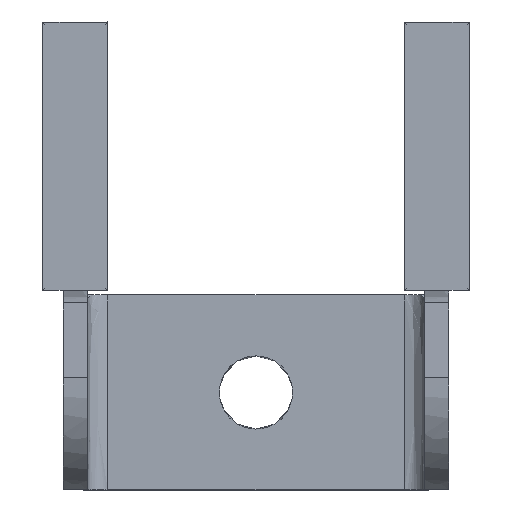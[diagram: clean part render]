
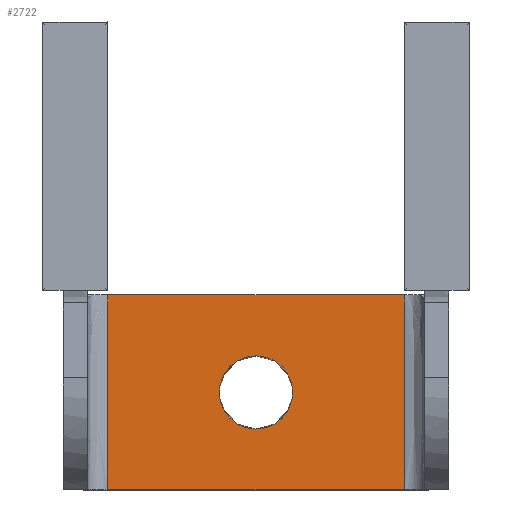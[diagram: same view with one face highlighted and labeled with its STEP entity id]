
A CAD part, top view. The second image highlights one B-rep face of the part: STEP entity #2722.
In plain terms, the highlighted planar face has unit normal (0, 0, 1).
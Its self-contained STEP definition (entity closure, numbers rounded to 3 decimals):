
#26 = VERTEX_POINT ( 'NONE', #59 ) ;
#59 = CARTESIAN_POINT ( 'NONE',  ( -36.5, -35., -120. ) ) ;
#168 = VERTEX_POINT ( 'NONE', #288 ) ;
#247 = CARTESIAN_POINT ( 'NONE',  ( 36.5, -83., -120. ) ) ;
#272 = VERTEX_POINT ( 'NONE', #314 ) ;
#279 = VERTEX_POINT ( 'NONE', #339 ) ;
#285 = CARTESIAN_POINT ( 'NONE',  ( 9., -59., -120. ) ) ;
#288 = CARTESIAN_POINT ( 'NONE',  ( -36.5, -83., -120. ) ) ;
#314 = CARTESIAN_POINT ( 'NONE',  ( -9., -59., -120. ) ) ;
#339 = CARTESIAN_POINT ( 'NONE',  ( 36.5, -35., -120. ) ) ;
#343 = VERTEX_POINT ( 'NONE', #285 ) ;
#349 = VERTEX_POINT ( 'NONE', #247 ) ;
#529 = EDGE_CURVE ( 'NONE', #26, #168, #2922, .T. ) ;
#550 = EDGE_CURVE ( 'NONE', #349, #279, #2876, .T. ) ;
#599 = EDGE_CURVE ( 'NONE', #349, #168, #2767, .T. ) ;
#600 = EDGE_CURVE ( 'NONE', #272, #343, #2484, .T. ) ;
#601 = EDGE_CURVE ( 'NONE', #343, #272, #2483, .T. ) ;
#602 = EDGE_CURVE ( 'NONE', #279, #26, #2797, .T. ) ;
#646 = AXIS2_PLACEMENT_3D ( 'NONE', #1356, #1358, #1359 ) ;
#1356 = CARTESIAN_POINT ( 'NONE',  ( -36.5, -35., -120. ) ) ;
#1357 = PLANE ( 'NONE',  #646 ) ;
#1358 = DIRECTION ( 'NONE',  ( 0., 0., 1. ) ) ;
#1359 = DIRECTION ( 'NONE',  ( 0., -1., 0. ) ) ;
#2483 = B_SPLINE_CURVE_WITH_KNOTS ( 'NONE', 3,
 ( #3432, #3408, #3407, #3406, #3405, #3404, #3403, #3402, #3401, #3400, #3399, #3398, #3397, #3396, #3395, #3394, #3393, #3392, #3391 ),
 .UNSPECIFIED., .F., .F.,
 ( 4, 3, 3, 3, 3, 3, 4 ),
 ( -0.026, -0.021, -0.016, -0.012, -0.007, -0.002, 0.002 ),
 .UNSPECIFIED. ) ;
#2484 = B_SPLINE_CURVE_WITH_KNOTS ( 'NONE', 3,
 ( #3442, #3426, #3425, #3424, #3423, #3422, #3421, #3420, #3419, #3418, #3417, #3416, #3415, #3414, #3413, #3412, #3411, #3410, #3409 ),
 .UNSPECIFIED., .F., .F.,
 ( 4, 3, 3, 3, 3, 3, 4 ),
 ( -0.026, -0.021, -0.016, -0.012, -0.007, -0.002, 0.002 ),
 .UNSPECIFIED. ) ;
#2574 = FACE_OUTER_BOUND ( 'NONE', #3150, .T. ) ;
#2581 = FACE_BOUND ( 'NONE', #3251, .T. ) ;
#2674 = DIRECTION ( 'NONE',  ( 0., -1., 0. ) ) ;
#2675 = CARTESIAN_POINT ( 'NONE',  ( -36.5, -35., -120. ) ) ;
#2722 = ADVANCED_FACE ( 'NONE', ( #2581, #2574 ), #1357, .T. ) ;
#2748 = ORIENTED_EDGE ( 'NONE', *, *, #602, .T. ) ;
#2749 = ORIENTED_EDGE ( 'NONE', *, *, #550, .T. ) ;
#2750 = ORIENTED_EDGE ( 'NONE', *, *, #529, .T. ) ;
#2751 = ORIENTED_EDGE ( 'NONE', *, *, #599, .F. ) ;
#2765 = VECTOR ( 'NONE', #3389, 1000. ) ;
#2766 = VECTOR ( 'NONE', #3428, 1000. ) ;
#2767 = LINE ( 'NONE', #3429, #2766 ) ;
#2797 = LINE ( 'NONE', #3390, #2765 ) ;
#2876 = LINE ( 'NONE', #3754, #2878 ) ;
#2878 = VECTOR ( 'NONE', #3753, 1000. ) ;
#2917 = VECTOR ( 'NONE', #2674, 1000. ) ;
#2922 = LINE ( 'NONE', #2675, #2917 ) ;
#3150 = EDGE_LOOP ( 'NONE', ( #2749, #2748, #2750, #2751 ) ) ;
#3230 = ORIENTED_EDGE ( 'NONE', *, *, #601, .F. ) ;
#3235 = ORIENTED_EDGE ( 'NONE', *, *, #600, .F. ) ;
#3251 = EDGE_LOOP ( 'NONE', ( #3230, #3235 ) ) ;
#3389 = DIRECTION ( 'NONE',  ( -1., 0., 0. ) ) ;
#3390 = CARTESIAN_POINT ( 'NONE',  ( -36.5, -35., -120. ) ) ;
#3391 = CARTESIAN_POINT ( 'NONE',  ( -9., -59., -120. ) ) ;
#3392 = CARTESIAN_POINT ( 'NONE',  ( -9., -57.42, -120. ) ) ;
#3393 = CARTESIAN_POINT ( 'NONE',  ( -8.584, -55.868, -120. ) ) ;
#3394 = CARTESIAN_POINT ( 'NONE',  ( -7.794, -54.5, -120. ) ) ;
#3395 = CARTESIAN_POINT ( 'NONE',  ( -7.004, -53.132, -120. ) ) ;
#3396 = CARTESIAN_POINT ( 'NONE',  ( -5.868, -51.996, -120. ) ) ;
#3397 = CARTESIAN_POINT ( 'NONE',  ( -4.5, -51.206, -120. ) ) ;
#3398 = CARTESIAN_POINT ( 'NONE',  ( -3.132, -50.416, -120. ) ) ;
#3399 = CARTESIAN_POINT ( 'NONE',  ( -1.58, -50., -120. ) ) ;
#3400 = CARTESIAN_POINT ( 'NONE',  ( 0., -50., -120. ) ) ;
#3401 = CARTESIAN_POINT ( 'NONE',  ( 1.58, -50., -120. ) ) ;
#3402 = CARTESIAN_POINT ( 'NONE',  ( 3.132, -50.416, -120. ) ) ;
#3403 = CARTESIAN_POINT ( 'NONE',  ( 4.5, -51.206, -120. ) ) ;
#3404 = CARTESIAN_POINT ( 'NONE',  ( 5.868, -51.996, -120. ) ) ;
#3405 = CARTESIAN_POINT ( 'NONE',  ( 7.004, -53.132, -120. ) ) ;
#3406 = CARTESIAN_POINT ( 'NONE',  ( 7.794, -54.5, -120. ) ) ;
#3407 = CARTESIAN_POINT ( 'NONE',  ( 8.584, -55.868, -120. ) ) ;
#3408 = CARTESIAN_POINT ( 'NONE',  ( 9., -57.42, -120. ) ) ;
#3409 = CARTESIAN_POINT ( 'NONE',  ( 9., -59., -120. ) ) ;
#3410 = CARTESIAN_POINT ( 'NONE',  ( 9., -60.58, -120. ) ) ;
#3411 = CARTESIAN_POINT ( 'NONE',  ( 8.584, -62.132, -120. ) ) ;
#3412 = CARTESIAN_POINT ( 'NONE',  ( 7.794, -63.5, -120. ) ) ;
#3413 = CARTESIAN_POINT ( 'NONE',  ( 7.004, -64.868, -120. ) ) ;
#3414 = CARTESIAN_POINT ( 'NONE',  ( 5.868, -66.004, -120. ) ) ;
#3415 = CARTESIAN_POINT ( 'NONE',  ( 4.5, -66.794, -120. ) ) ;
#3416 = CARTESIAN_POINT ( 'NONE',  ( 3.132, -67.584, -120. ) ) ;
#3417 = CARTESIAN_POINT ( 'NONE',  ( 1.58, -68., -120. ) ) ;
#3418 = CARTESIAN_POINT ( 'NONE',  ( 0., -68., -120. ) ) ;
#3419 = CARTESIAN_POINT ( 'NONE',  ( -1.58, -68., -120. ) ) ;
#3420 = CARTESIAN_POINT ( 'NONE',  ( -3.132, -67.584, -120. ) ) ;
#3421 = CARTESIAN_POINT ( 'NONE',  ( -4.5, -66.794, -120. ) ) ;
#3422 = CARTESIAN_POINT ( 'NONE',  ( -5.868, -66.004, -120. ) ) ;
#3423 = CARTESIAN_POINT ( 'NONE',  ( -7.004, -64.868, -120. ) ) ;
#3424 = CARTESIAN_POINT ( 'NONE',  ( -7.794, -63.5, -120. ) ) ;
#3425 = CARTESIAN_POINT ( 'NONE',  ( -8.584, -62.132, -120. ) ) ;
#3426 = CARTESIAN_POINT ( 'NONE',  ( -9., -60.58, -120. ) ) ;
#3428 = DIRECTION ( 'NONE',  ( -1., 0., 0. ) ) ;
#3429 = CARTESIAN_POINT ( 'NONE',  ( 47.5, -83., -120. ) ) ;
#3432 = CARTESIAN_POINT ( 'NONE',  ( 9., -59., -120. ) ) ;
#3442 = CARTESIAN_POINT ( 'NONE',  ( -9., -59., -120. ) ) ;
#3753 = DIRECTION ( 'NONE',  ( 0., 1., 0. ) ) ;
#3754 = CARTESIAN_POINT ( 'NONE',  ( 36.5, -35., -120. ) ) ;
